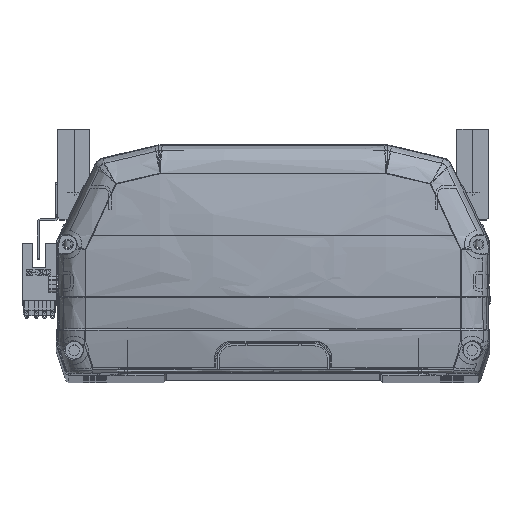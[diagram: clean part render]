
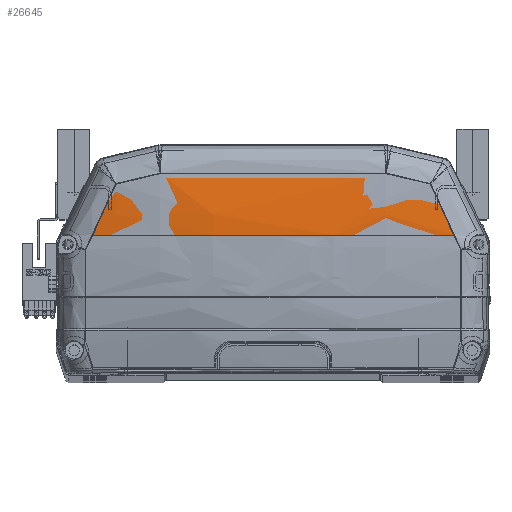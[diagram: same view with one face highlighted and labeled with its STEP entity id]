
A CAD part, top view. The second image highlights one B-rep face of the part: STEP entity #26645.
In plain terms, the highlighted toroidal (fillet/blend) face has major radius 312.5 mm and minor radius 572.4 mm.
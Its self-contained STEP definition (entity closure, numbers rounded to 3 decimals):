
#51 = CARTESIAN_POINT ( 'NONE',  ( -50.132, 78.049, -3.29 ) ) ;
#1078 = B_SPLINE_CURVE_WITH_KNOTS ( 'NONE', 3,
 ( #40964, #7849, #21312, #37743, #17548, #17826 ),
 .UNSPECIFIED., .F., .F.,
 ( 4, 2, 4 ),
 ( 0., 0.044, 0.089 ),
 .UNSPECIFIED. ) ;
#1180 = VERTEX_POINT ( 'NONE', #40188 ) ;
#2338 = CARTESIAN_POINT ( 'NONE',  ( 67.917, 61.809, -4.135 ) ) ;
#3054 = CARTESIAN_POINT ( 'NONE',  ( 71.027, 55.096, -4.524 ) ) ;
#3287 = CARTESIAN_POINT ( 'NONE',  ( 55.929, 76.66, -3.711 ) ) ;
#3960 = CARTESIAN_POINT ( 'NONE',  ( -55.929, 76.661, -3.711 ) ) ;
#4212 = VERTEX_POINT ( 'NONE', #20312 ) ;
#5374 = B_SPLINE_CURVE_WITH_KNOTS ( 'NONE', 3,
 ( #18981, #5806, #2338, #28856 ),
 .UNSPECIFIED., .F., .F.,
 ( 4, 4 ),
 ( 0., 0.022 ),
 .UNSPECIFIED. ) ;
#5806 = CARTESIAN_POINT ( 'NONE',  ( 64.811, 68.545, -4.037 ) ) ;
#6995 = VERTEX_POINT ( 'NONE', #13346 ) ;
#7849 = CARTESIAN_POINT ( 'NONE',  ( -29.579, 79.39, -1.814 ) ) ;
#9708 = AXIS2_PLACEMENT_3D ( 'NONE', #37313, #40249, #16974 ) ;
#10079 = AXIS2_PLACEMENT_3D ( 'NONE', #23513, #31507, #11605 ) ;
#10177 = EDGE_CURVE ( 'NONE', #4212, #23626, #26610, .T. ) ;
#10465 = ORIENTED_EDGE ( 'NONE', *, *, #24154, .F. ) ;
#11605 = DIRECTION ( 'NONE',  ( 0., 0., -1. ) ) ;
#12088 = ORIENTED_EDGE ( 'NONE', *, *, #27202, .F. ) ;
#13026 = B_SPLINE_CURVE_WITH_KNOTS ( 'NONE', 3,
 ( #19633, #39278, #35923, #19350, #16452, #36351 ),
 .UNSPECIFIED., .F., .F.,
 ( 4, 2, 4 ),
 ( 0.006, 0.017, 0.029 ),
 .UNSPECIFIED. ) ;
#13346 = CARTESIAN_POINT ( 'NONE',  ( -71.027, 55.096, -4.524 ) ) ;
#15230 = ORIENTED_EDGE ( 'NONE', *, *, #22888, .T. ) ;
#16452 = CARTESIAN_POINT ( 'NONE',  ( -63.264, 71.911, -4.135 ) ) ;
#16728 = CARTESIAN_POINT ( 'NONE',  ( -44.331, 79.443, -2.97 ) ) ;
#16974 = DIRECTION ( 'NONE',  ( 0., 0., 1. ) ) ;
#17548 = CARTESIAN_POINT ( 'NONE',  ( 29.579, 79.389, -1.814 ) ) ;
#17826 = CARTESIAN_POINT ( 'NONE',  ( 44.331, 79.443, -2.97 ) ) ;
#17971 = ORIENTED_EDGE ( 'NONE', *, *, #33341, .F. ) ;
#18981 = CARTESIAN_POINT ( 'NONE',  ( 61.718, 75.278, -4.232 ) ) ;
#19222 = EDGE_LOOP ( 'NONE', ( #28476, #15230, #17971, #12088, #10465, #29080 ) ) ;
#19350 = CARTESIAN_POINT ( 'NONE',  ( -64.813, 68.545, -4.11 ) ) ;
#19633 = CARTESIAN_POINT ( 'NONE',  ( -71.027, 55.096, -4.524 ) ) ;
#20055 = CARTESIAN_POINT ( 'NONE',  ( -61.718, 75.278, -4.232 ) ) ;
#20067 = CARTESIAN_POINT ( 'NONE',  ( -44.331, 79.443, -2.97 ) ) ;
#20087 = CARTESIAN_POINT ( 'NONE',  ( 44.331, 79.443, -2.97 ) ) ;
#20312 = CARTESIAN_POINT ( 'NONE',  ( -61.718, 75.278, -4.232 ) ) ;
#21312 = CARTESIAN_POINT ( 'NONE',  ( -14.788, 79.361, -1.235 ) ) ;
#22888 = EDGE_CURVE ( 'NONE', #6995, #38413, #33892, .T. ) ;
#23452 = EDGE_CURVE ( 'NONE', #6995, #4212, #13026, .T. ) ;
#23513 = CARTESIAN_POINT ( 'NONE',  ( 0., 55.096, -260. ) ) ;
#23626 = VERTEX_POINT ( 'NONE', #20067 ) ;
#24154 = EDGE_CURVE ( 'NONE', #23626, #1180, #1078, .T. ) ;
#25337 = FACE_OUTER_BOUND ( 'NONE', #19222, .T. ) ;
#26610 = B_SPLINE_CURVE_WITH_KNOTS ( 'NONE', 3,
 ( #20055, #3960, #51, #16728 ),
 .UNSPECIFIED., .F., .F.,
 ( 4, 4 ),
 ( 0., 0.018 ),
 .UNSPECIFIED. ) ;
#26645 = ADVANCED_FACE ( 'NONE', ( #25337 ), #37821, .T. ) ;
#27202 = EDGE_CURVE ( 'NONE', #1180, #38859, #40327, .T. ) ;
#28476 = ORIENTED_EDGE ( 'NONE', *, *, #23452, .F. ) ;
#28856 = CARTESIAN_POINT ( 'NONE',  ( 71.027, 55.096, -4.524 ) ) ;
#29080 = ORIENTED_EDGE ( 'NONE', *, *, #10177, .F. ) ;
#31507 = DIRECTION ( 'NONE',  ( 1., 0., 0. ) ) ;
#33312 = CARTESIAN_POINT ( 'NONE',  ( 61.718, 75.278, -4.232 ) ) ;
#33341 = EDGE_CURVE ( 'NONE', #38859, #38413, #5374, .T. ) ;
#33892 = CIRCLE ( 'NONE', #9708, 572.4 ) ;
#35923 = CARTESIAN_POINT ( 'NONE',  ( -67.917, 61.816, -4.208 ) ) ;
#36351 = CARTESIAN_POINT ( 'NONE',  ( -61.718, 75.278, -4.232 ) ) ;
#37313 = CARTESIAN_POINT ( 'NONE',  ( 0., 55.096, -572.5 ) ) ;
#37743 = CARTESIAN_POINT ( 'NONE',  ( 14.805, 79.361, -1.235 ) ) ;
#37821 = TOROIDAL_SURFACE ( 'NONE', #10079, -312.5, 572.4 ) ;
#38413 = VERTEX_POINT ( 'NONE', #3054 ) ;
#38859 = VERTEX_POINT ( 'NONE', #39581 ) ;
#39278 = CARTESIAN_POINT ( 'NONE',  ( -69.472, 58.454, -4.329 ) ) ;
#39436 = CARTESIAN_POINT ( 'NONE',  ( 50.132, 78.049, -3.29 ) ) ;
#39581 = CARTESIAN_POINT ( 'NONE',  ( 61.718, 75.278, -4.232 ) ) ;
#40188 = CARTESIAN_POINT ( 'NONE',  ( 44.331, 79.443, -2.97 ) ) ;
#40249 = DIRECTION ( 'NONE',  ( 0., 1., 0. ) ) ;
#40327 = B_SPLINE_CURVE_WITH_KNOTS ( 'NONE', 3,
 ( #20087, #39436, #3287, #33312 ),
 .UNSPECIFIED., .F., .F.,
 ( 4, 4 ),
 ( 0., 0.018 ),
 .UNSPECIFIED. ) ;
#40964 = CARTESIAN_POINT ( 'NONE',  ( -44.331, 79.443, -2.97 ) ) ;
